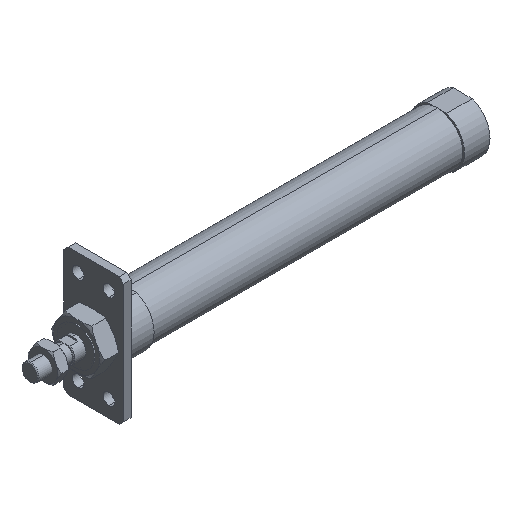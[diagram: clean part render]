
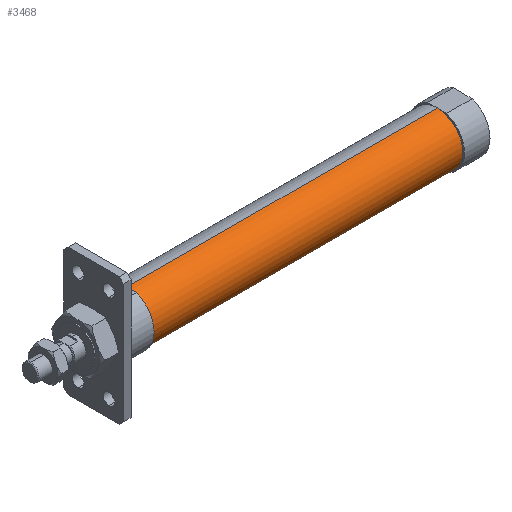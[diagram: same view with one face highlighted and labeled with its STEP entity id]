
A CAD part, isometric view. The second image highlights one B-rep face of the part: STEP entity #3468.
In plain terms, the highlighted cylindrical face has radius 15 mm (diameter 30 mm), a partial arc.
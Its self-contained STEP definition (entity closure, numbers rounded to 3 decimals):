
#20 = ORIENTED_EDGE ( 'NONE', *, *, #3456, .T. ) ;
#92 = CARTESIAN_POINT ( 'NONE',  ( 57., 0., 0. ) ) ;
#126 = ORIENTED_EDGE ( 'NONE', *, *, #1599, .T. ) ;
#222 = CARTESIAN_POINT ( 'NONE',  ( -6.469, 0., 15. ) ) ;
#405 = CARTESIAN_POINT ( 'NONE',  ( 239., 0., 15. ) ) ;
#413 = DIRECTION ( 'NONE',  ( -1., 0., 0. ) ) ;
#437 = VERTEX_POINT ( 'NONE', #2285 ) ;
#445 = CIRCLE ( 'NONE', #627, 15. ) ;
#455 = VECTOR ( 'NONE', #3016, 1000. ) ;
#572 = CARTESIAN_POINT ( 'NONE',  ( 57., 0., -15. ) ) ;
#594 = CIRCLE ( 'NONE', #2934, 15. ) ;
#627 = AXIS2_PLACEMENT_3D ( 'NONE', #757, #413, #2864 ) ;
#757 = CARTESIAN_POINT ( 'NONE',  ( 239., 0., 0. ) ) ;
#964 = CARTESIAN_POINT ( 'NONE',  ( -6.469, 0., -15. ) ) ;
#972 = LINE ( 'NONE', #222, #455 ) ;
#1025 = CARTESIAN_POINT ( 'NONE',  ( 239., 0., -15. ) ) ;
#1168 = VECTOR ( 'NONE', #3398, 1000. ) ;
#1316 = CARTESIAN_POINT ( 'NONE',  ( -6.469, 0., 0. ) ) ;
#1332 = VERTEX_POINT ( 'NONE', #405 ) ;
#1389 = ORIENTED_EDGE ( 'NONE', *, *, #2615, .F. ) ;
#1398 = CYLINDRICAL_SURFACE ( 'NONE', #3277, 15. ) ;
#1491 = FACE_OUTER_BOUND ( 'NONE', #2720, .T. ) ;
#1512 = VERTEX_POINT ( 'NONE', #1025 ) ;
#1599 = EDGE_CURVE ( 'NONE', #1332, #437, #972, .T. ) ;
#1647 = DIRECTION ( 'NONE',  ( -1., 0., 0. ) ) ;
#1823 = EDGE_CURVE ( 'NONE', #1512, #3782, #2128, .T. ) ;
#1920 = DIRECTION ( 'NONE',  ( -1., 0., 0. ) ) ;
#2128 = LINE ( 'NONE', #964, #1168 ) ;
#2194 = ORIENTED_EDGE ( 'NONE', *, *, #1823, .F. ) ;
#2285 = CARTESIAN_POINT ( 'NONE',  ( 57., 0., 15. ) ) ;
#2615 = EDGE_CURVE ( 'NONE', #3782, #437, #594, .T. ) ;
#2720 = EDGE_LOOP ( 'NONE', ( #2194, #20, #126, #1389 ) ) ;
#2864 = DIRECTION ( 'NONE',  ( 0., 0., 1. ) ) ;
#2934 = AXIS2_PLACEMENT_3D ( 'NONE', #92, #1920, #3454 ) ;
#3016 = DIRECTION ( 'NONE',  ( -1., 0., 0. ) ) ;
#3277 = AXIS2_PLACEMENT_3D ( 'NONE', #1316, #1647, #3793 ) ;
#3398 = DIRECTION ( 'NONE',  ( -1., 0., 0. ) ) ;
#3454 = DIRECTION ( 'NONE',  ( 0., 0., 1. ) ) ;
#3456 = EDGE_CURVE ( 'NONE', #1512, #1332, #445, .T. ) ;
#3468 = ADVANCED_FACE ( 'NONE', ( #1491 ), #1398, .T. ) ;
#3782 = VERTEX_POINT ( 'NONE', #572 ) ;
#3793 = DIRECTION ( 'NONE',  ( 0., 0., 1. ) ) ;
